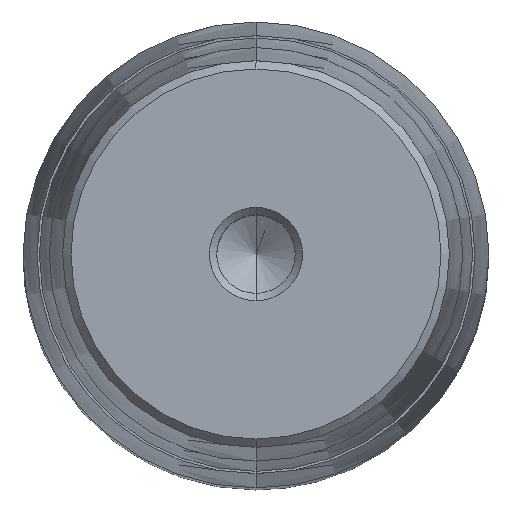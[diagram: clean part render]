
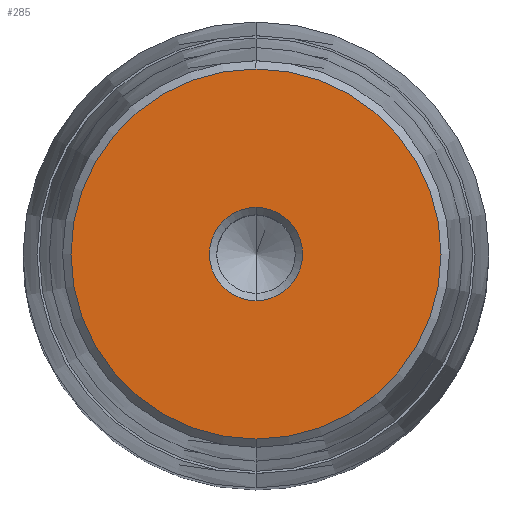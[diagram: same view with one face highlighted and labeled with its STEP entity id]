
A CAD part, top view. The second image highlights one B-rep face of the part: STEP entity #285.
In plain terms, the highlighted planar face has unit normal (0, 0, 1).
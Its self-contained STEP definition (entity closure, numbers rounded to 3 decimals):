
#164=CARTESIAN_POINT('Axis2P3D Location',(0.,0.,69.)) ;
#168=CARTESIAN_POINT('Vertex',(6.,0.,69.)) ;
#170=CARTESIAN_POINT('Vertex',(0.,-6.,69.)) ;
#173=CARTESIAN_POINT('Axis2P3D Location',(0.,0.,69.)) ;
#177=CARTESIAN_POINT('Vertex',(0.,6.,69.)) ;
#228=CARTESIAN_POINT('Axis2P3D Location',(0.,6.,69.)) ;
#233=CARTESIAN_POINT('Axis2P3D Location',(0.,0.,69.)) ;
#237=CARTESIAN_POINT('Vertex',(0.,23.825,69.)) ;
#239=CARTESIAN_POINT('Vertex',(23.825,0.,69.)) ;
#242=CARTESIAN_POINT('Axis2P3D Location',(0.,0.,69.)) ;
#246=CARTESIAN_POINT('Vertex',(-23.825,0.,69.)) ;
#249=CARTESIAN_POINT('Axis2P3D Location',(0.,0.,69.)) ;
#253=CARTESIAN_POINT('Vertex',(0.,-23.825,69.)) ;
#256=CARTESIAN_POINT('Axis2P3D Location',(0.,0.,69.)) ;
#267=CARTESIAN_POINT('Axis2P3D Location',(0.,0.,69.)) ;
#271=CARTESIAN_POINT('Vertex',(-6.,0.,69.)) ;
#274=CARTESIAN_POINT('Axis2P3D Location',(0.,0.,69.)) ;
#165=DIRECTION('Axis2P3D Direction',(-0.,0.,1.)) ;
#174=DIRECTION('Axis2P3D Direction',(-0.,0.,1.)) ;
#229=DIRECTION('Axis2P3D Direction',(0.,0.,-1.)) ;
#230=DIRECTION('Axis2P3D XDirection',(0.,1.,0.)) ;
#234=DIRECTION('Axis2P3D Direction',(0.,0.,-1.)) ;
#243=DIRECTION('Axis2P3D Direction',(0.,0.,-1.)) ;
#250=DIRECTION('Axis2P3D Direction',(0.,0.,-1.)) ;
#257=DIRECTION('Axis2P3D Direction',(0.,0.,-1.)) ;
#268=DIRECTION('Axis2P3D Direction',(0.,0.,-1.)) ;
#275=DIRECTION('Axis2P3D Direction',(0.,0.,-1.)) ;
#166=AXIS2_PLACEMENT_3D('Circle Axis2P3D',#164,#165,$) ;
#175=AXIS2_PLACEMENT_3D('Circle Axis2P3D',#173,#174,$) ;
#231=AXIS2_PLACEMENT_3D('Plane Axis2P3D',#228,#229,#230) ;
#235=AXIS2_PLACEMENT_3D('Circle Axis2P3D',#233,#234,$) ;
#244=AXIS2_PLACEMENT_3D('Circle Axis2P3D',#242,#243,$) ;
#251=AXIS2_PLACEMENT_3D('Circle Axis2P3D',#249,#250,$) ;
#258=AXIS2_PLACEMENT_3D('Circle Axis2P3D',#256,#257,$) ;
#269=AXIS2_PLACEMENT_3D('Circle Axis2P3D',#267,#268,$) ;
#276=AXIS2_PLACEMENT_3D('Circle Axis2P3D',#274,#275,$) ;
#262=ORIENTED_EDGE('',*,*,#241,.F.) ;
#263=ORIENTED_EDGE('',*,*,#248,.F.) ;
#264=ORIENTED_EDGE('',*,*,#255,.F.) ;
#265=ORIENTED_EDGE('',*,*,#260,.F.) ;
#280=ORIENTED_EDGE('',*,*,#172,.T.) ;
#281=ORIENTED_EDGE('',*,*,#273,.T.) ;
#282=ORIENTED_EDGE('',*,*,#278,.T.) ;
#283=ORIENTED_EDGE('',*,*,#179,.T.) ;
#284=FACE_BOUND('',#279,.T.) ;
#285=ADVANCED_FACE('722-60x180x231',(#266,#284),#232,.F.) ;
#167=CIRCLE('generated circle',#166,6.) ;
#176=CIRCLE('generated circle',#175,6.) ;
#236=CIRCLE('generated circle',#235,23.825) ;
#245=CIRCLE('generated circle',#244,23.825) ;
#252=CIRCLE('generated circle',#251,23.825) ;
#259=CIRCLE('generated circle',#258,23.825) ;
#270=CIRCLE('generated circle',#269,6.) ;
#277=CIRCLE('generated circle',#276,6.) ;
#172=EDGE_CURVE('',#169,#171,#167,.F.) ;
#179=EDGE_CURVE('',#178,#169,#176,.F.) ;
#241=EDGE_CURVE('',#238,#240,#236,.T.) ;
#248=EDGE_CURVE('',#247,#238,#245,.T.) ;
#255=EDGE_CURVE('',#254,#247,#252,.T.) ;
#260=EDGE_CURVE('',#240,#254,#259,.T.) ;
#273=EDGE_CURVE('',#171,#272,#270,.T.) ;
#278=EDGE_CURVE('',#272,#178,#277,.T.) ;
#261=EDGE_LOOP('',(#262,#263,#264,#265)) ;
#279=EDGE_LOOP('',(#280,#281,#282,#283)) ;
#266=FACE_OUTER_BOUND('',#261,.T.) ;
#232=PLANE('Plane',#231) ;
#169=VERTEX_POINT('',#168) ;
#171=VERTEX_POINT('',#170) ;
#178=VERTEX_POINT('',#177) ;
#238=VERTEX_POINT('',#237) ;
#240=VERTEX_POINT('',#239) ;
#247=VERTEX_POINT('',#246) ;
#254=VERTEX_POINT('',#253) ;
#272=VERTEX_POINT('',#271) ;
